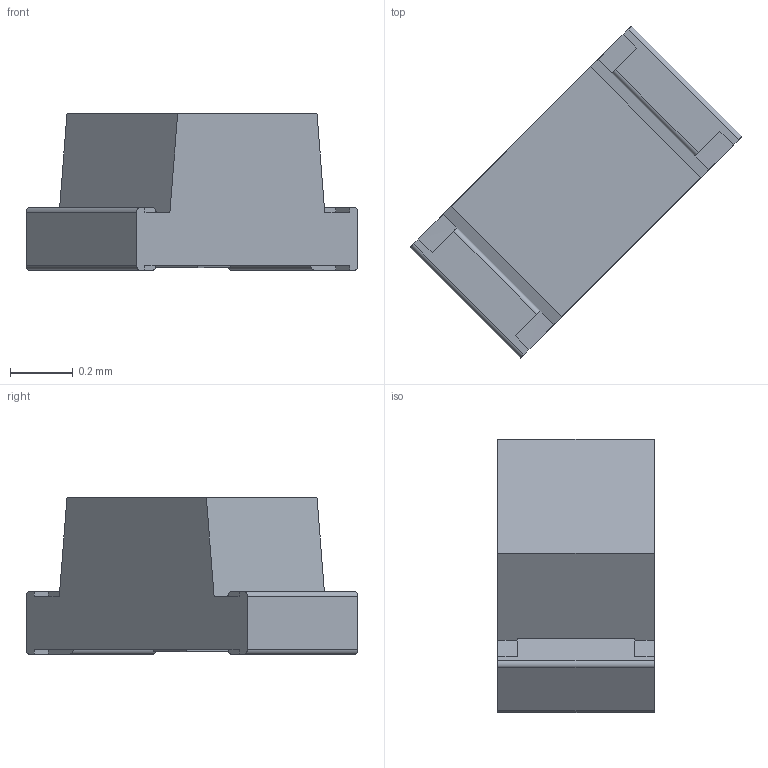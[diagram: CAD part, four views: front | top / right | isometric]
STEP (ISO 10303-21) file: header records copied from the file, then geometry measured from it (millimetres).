
FILE_DESCRIPTION(/* description */ ('STEP AP242 Edition 2','CAx-IF Rec.Pracs.---Representation and Presentation of Product Manufacturing Information (PMI)---4.0---2014-10-13','CAx-IF Rec.Pracs.---3D Tessellated Geometry---0.4---2014-09-14','2;1','CAx-IF Rec.Pracs.---User Defined Attributes---1.5---2016-08-15'),/* implementation_level */ '2;1');
FILE_NAME(/* name */ 'v2_assembly - LED_0402_1005Metric',/* time_stamp */ '2026-05-19T16:26:04Z',/* author */ (''),/* organization */ (''),/* preprocessor_version */ 'ST-DEVELOPER v20',/* originating_system */ 'ONSHAPE BY PTC INC, 1.215',/* authorisation */ ' ');
FILE_SCHEMA (('AP242_MANAGED_MODEL_BASED_3D_ENGINEERING_MIM_LF { 1 0 10303 442 3 1 4 }'));
Length unit declared in the file: metre
Products named in the file (1): LED_0402_1005Metric
Bounding box: 1.06 x 1.06 x 0.5 mm (x, y, z)
Volume: 0.2 mm3; surface area: 2.3 mm2
Topology: 1 solids, 1 shells, 44 faces, 119 edges, 78 vertices
Faces by surface type: plane 36, cylinder 8
Entity records: 1686 total; most frequent: CARTESIAN_POINT 242, ORIENTED_EDGE 238, DIRECTION 225, EDGE_CURVE 119, LINE 103, VECTOR 103, VERTEX_POINT 78, AXIS2_PLACEMENT_3D 61
